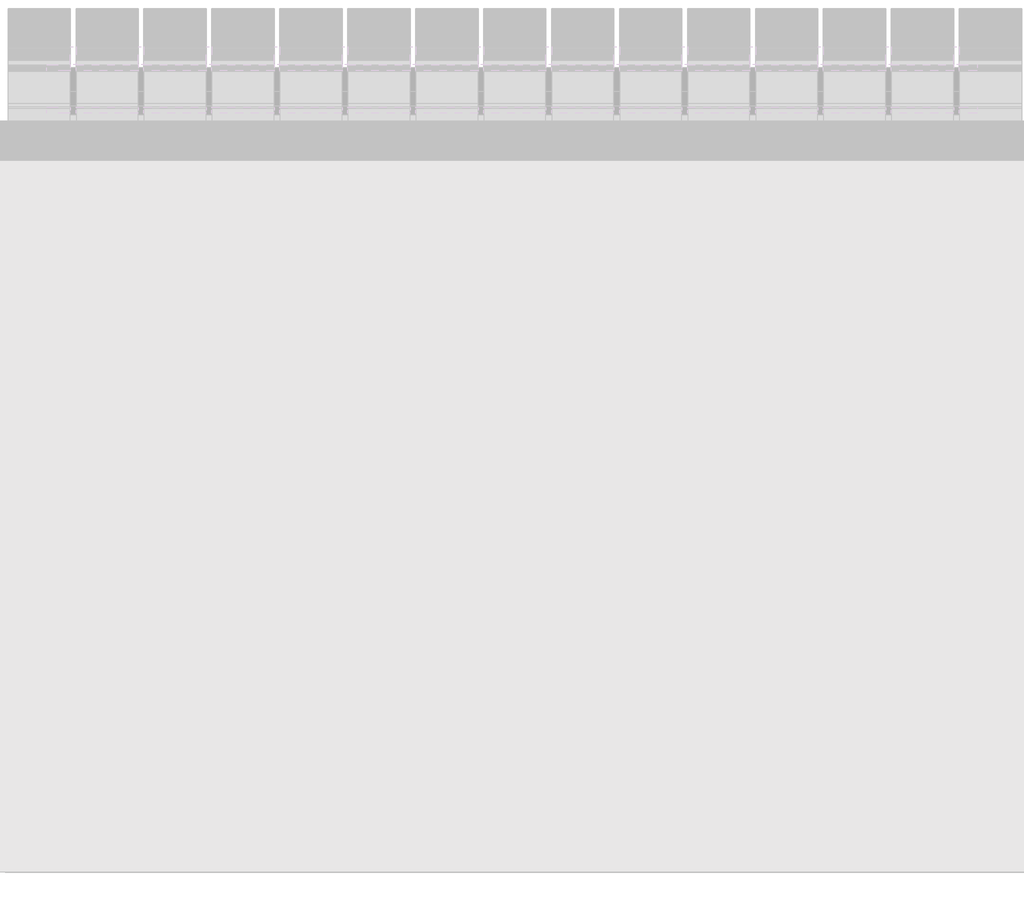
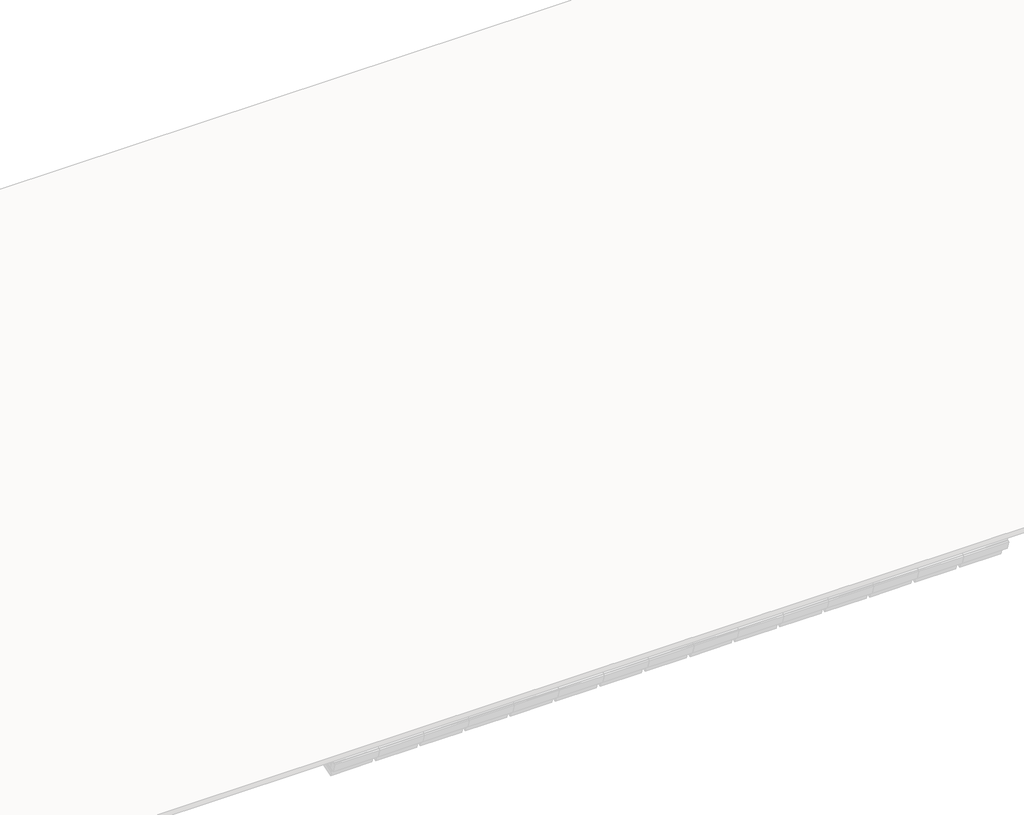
# One storey, part 36 of 57: 80 members, 44 plates.
"""IFC4 building model written with IfcOpenShell, lengths in millimetres."""

from ifc_helpers import new_model, si_unit, origin, place, context, project, spatial, transform, mapped, element, save
from components import rectangular_mullion_59984080, rectangular_mullion_2d2423ea, rectangular_mullion_caibro_e4384bba, rectangular_mullion_caibro_0993a3cf, empty_system_panel_vazio_178faf58, empty_system_panel_vazio_2c78850d

model = new_model("IFC4")

# Units and contexts
model_context = context("Model", 3, world=origin())
ifc_project = project(units=[si_unit("LENGTHUNIT", "METRE", prefix="MILLI")], contexts=[model_context])

# Site, building, storey
site = spatial("IfcSite", under=ifc_project)
building = spatial("IfcBuilding", under=site)
storey = spatial("IfcBuildingStorey", under=building, Name="Nível 2", Elevation=4100.0)

# Members
placement = place(None, origin())
rectangular_mullion_shape = rectangular_mullion_59984080(model_context)
element("IfcMember", 1, ObjectType="Rectangular Mullion : Ripa", at=placement, inside=storey, context=model_context, shape_type="MappedRepresentation", body=[
    mapped(rectangular_mullion_shape, transform((30435.3089606, 8162.5832694, 3598.8241594), x_axis=(0.0, 0.9578262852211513, 0.2873478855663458), y_axis=(0.0, 0.2873478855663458, -0.9578262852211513), z_axis=(-1.0, 0.0, 0.0))),
])
element("IfcMember", 2, ObjectType="Rectangular Mullion : Ripa", at=placement, inside=storey, context=model_context, shape_type="MappedRepresentation", body=[
    mapped(rectangular_mullion_shape, transform((31032.363717, 8162.5832694, 3598.8241594), x_axis=(0.0, 0.9578262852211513, 0.2873478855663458), y_axis=(0.0, 0.2873478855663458, -0.9578262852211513), z_axis=(-1.0, 0.0, 0.0))),
])
element("IfcMember", 3, ObjectType="Rectangular Mullion : Ripa", at=placement, inside=storey, context=model_context, shape_type="MappedRepresentation", body=[
    mapped(rectangular_mullion_shape, transform((31629.4184734, 8162.5832694, 3598.8241594), x_axis=(0.0, 0.9578262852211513, 0.2873478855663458), y_axis=(0.0, 0.2873478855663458, -0.9578262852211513), z_axis=(-1.0, 0.0, 0.0))),
])
element("IfcMember", 4, ObjectType="Rectangular Mullion : Ripa", at=placement, inside=storey, context=model_context, shape_type="MappedRepresentation", body=[
    mapped(rectangular_mullion_shape, transform((30435.3089606, 8532.7605281, 3709.877337), x_axis=(0.0, 0.9578262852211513, 0.2873478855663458), y_axis=(0.0, 0.2873478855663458, -0.9578262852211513), z_axis=(-1.0, 0.0, 0.0))),
])
element("IfcMember", 5, ObjectType="Rectangular Mullion : Ripa", at=placement, inside=storey, context=model_context, shape_type="MappedRepresentation", body=[
    mapped(rectangular_mullion_shape, transform((31032.363717, 8532.7605281, 3709.877337), x_axis=(0.0, 0.9578262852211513, 0.2873478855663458), y_axis=(0.0, 0.2873478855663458, -0.9578262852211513), z_axis=(-1.0, 0.0, 0.0))),
])
element("IfcMember", 6, ObjectType="Rectangular Mullion : Ripa", at=placement, inside=storey, context=model_context, shape_type="MappedRepresentation", body=[
    mapped(rectangular_mullion_shape, transform((31629.4184734, 8532.7605281, 3709.877337), x_axis=(0.0, 0.9578262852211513, 0.2873478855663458), y_axis=(0.0, 0.2873478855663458, -0.9578262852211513), z_axis=(-1.0, 0.0, 0.0))),
])
element("IfcMember", 7, ObjectType="Rectangular Mullion : Ripa", at=placement, inside=storey, context=model_context, shape_type="MappedRepresentation", body=[
    mapped(rectangular_mullion_shape, transform((30435.3089606, 8902.9377868, 3820.9305146), x_axis=(0.0, 0.9578262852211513, 0.2873478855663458), y_axis=(0.0, 0.2873478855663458, -0.9578262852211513), z_axis=(-1.0, 0.0, 0.0))),
])
element("IfcMember", 8, ObjectType="Rectangular Mullion : Ripa", at=placement, inside=storey, context=model_context, shape_type="MappedRepresentation", body=[
    mapped(rectangular_mullion_shape, transform((31032.363717, 8902.9377868, 3820.9305146), x_axis=(0.0, 0.9578262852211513, 0.2873478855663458), y_axis=(0.0, 0.2873478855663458, -0.9578262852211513), z_axis=(-1.0, 0.0, 0.0))),
])
element("IfcMember", 9, ObjectType="Rectangular Mullion : Ripa", at=placement, inside=storey, context=model_context, shape_type="MappedRepresentation", body=[
    mapped(rectangular_mullion_shape, transform((31629.4184734, 8902.9377868, 3820.9305146), x_axis=(0.0, 0.9578262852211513, 0.2873478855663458), y_axis=(0.0, 0.2873478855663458, -0.9578262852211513), z_axis=(-1.0, 0.0, 0.0))),
])
element("IfcMember", 10, ObjectType="Rectangular Mullion : Ripa", at=placement, inside=storey, context=model_context, shape_type="MappedRepresentation", body=[
    mapped(rectangular_mullion_shape, transform((29241.1994477, 9273.1150454, 3931.9836922), x_axis=(0.0, 0.9578262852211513, 0.2873478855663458), y_axis=(0.0, 0.2873478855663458, -0.9578262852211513), z_axis=(-1.0, 0.0, 0.0))),
])
element("IfcMember", 11, ObjectType="Rectangular Mullion : Ripa", at=placement, inside=storey, context=model_context, shape_type="MappedRepresentation", body=[
    mapped(rectangular_mullion_shape, transform((29838.2542041, 9273.1150454, 3931.9836922), x_axis=(0.0, 0.9578262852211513, 0.2873478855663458), y_axis=(0.0, 0.2873478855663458, -0.9578262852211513), z_axis=(-1.0, 0.0, 0.0))),
])
element("IfcMember", 12, ObjectType="Rectangular Mullion : Ripa", at=placement, inside=storey, context=model_context, shape_type="MappedRepresentation", body=[
    mapped(rectangular_mullion_shape, transform((30435.3089606, 9273.1150454, 3931.9836922), x_axis=(0.0, 0.9578262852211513, 0.2873478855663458), y_axis=(0.0, 0.2873478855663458, -0.9578262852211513), z_axis=(-1.0, 0.0, 0.0))),
])
element("IfcMember", 13, ObjectType="Rectangular Mullion : Ripa", at=placement, inside=storey, context=model_context, shape_type="MappedRepresentation", body=[
    mapped(rectangular_mullion_shape, transform((31032.363717, 9273.1150454, 3931.9836922), x_axis=(0.0, 0.9578262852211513, 0.2873478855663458), y_axis=(0.0, 0.2873478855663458, -0.9578262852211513), z_axis=(-1.0, 0.0, 0.0))),
])
element("IfcMember", 14, ObjectType="Rectangular Mullion : Ripa", at=placement, inside=storey, context=model_context, shape_type="MappedRepresentation", body=[
    mapped(rectangular_mullion_shape, transform((31629.4184734, 9273.1150454, 3931.9836922), x_axis=(0.0, 0.9578262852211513, 0.2873478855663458), y_axis=(0.0, 0.2873478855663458, -0.9578262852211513), z_axis=(-1.0, 0.0, 0.0))),
])
element("IfcMember", 15, ObjectType="Rectangular Mullion : Ripa", at=placement, inside=storey, context=model_context, shape_type="MappedRepresentation", body=[
    mapped(rectangular_mullion_shape, transform((28047.0899349, 9643.2923041, 4043.0368698), x_axis=(0.0, 0.9578262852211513, 0.2873478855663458), y_axis=(0.0, 0.2873478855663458, -0.9578262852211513), z_axis=(-1.0, 0.0, 0.0))),
])
element("IfcMember", 16, ObjectType="Rectangular Mullion : Ripa", at=placement, inside=storey, context=model_context, shape_type="MappedRepresentation", body=[
    mapped(rectangular_mullion_shape, transform((28644.1446913, 9643.2923041, 4043.0368698), x_axis=(0.0, 0.9578262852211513, 0.2873478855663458), y_axis=(0.0, 0.2873478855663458, -0.9578262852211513), z_axis=(-1.0, 0.0, 0.0))),
])
element("IfcMember", 17, ObjectType="Rectangular Mullion : Ripa", at=placement, inside=storey, context=model_context, shape_type="MappedRepresentation", body=[
    mapped(rectangular_mullion_shape, transform((29241.1994477, 9643.2923041, 4043.0368698), x_axis=(0.0, 0.9578262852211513, 0.2873478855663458), y_axis=(0.0, 0.2873478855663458, -0.9578262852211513), z_axis=(-1.0, 0.0, 0.0))),
])
element("IfcMember", 18, ObjectType="Rectangular Mullion : Ripa", at=placement, inside=storey, context=model_context, shape_type="MappedRepresentation", body=[
    mapped(rectangular_mullion_shape, transform((29838.2542041, 9643.2923041, 4043.0368698), x_axis=(0.0, 0.9578262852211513, 0.2873478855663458), y_axis=(0.0, 0.2873478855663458, -0.9578262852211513), z_axis=(-1.0, 0.0, 0.0))),
])
element("IfcMember", 19, ObjectType="Rectangular Mullion : Ripa", at=placement, inside=storey, context=model_context, shape_type="MappedRepresentation", body=[
    mapped(rectangular_mullion_shape, transform((30435.3089606, 9643.2923041, 4043.0368698), x_axis=(0.0, 0.9578262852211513, 0.2873478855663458), y_axis=(0.0, 0.2873478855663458, -0.9578262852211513), z_axis=(-1.0, 0.0, 0.0))),
])
element("IfcMember", 20, ObjectType="Rectangular Mullion : Ripa", at=placement, inside=storey, context=model_context, shape_type="MappedRepresentation", body=[
    mapped(rectangular_mullion_shape, transform((31032.363717, 9643.2923041, 4043.0368698), x_axis=(0.0, 0.9578262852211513, 0.2873478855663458), y_axis=(0.0, 0.2873478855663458, -0.9578262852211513), z_axis=(-1.0, 0.0, 0.0))),
])
element("IfcMember", 21, ObjectType="Rectangular Mullion : Ripa", at=placement, inside=storey, context=model_context, shape_type="MappedRepresentation", body=[
    mapped(rectangular_mullion_shape, transform((31629.4184734, 9643.2923041, 4043.0368698), x_axis=(0.0, 0.9578262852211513, 0.2873478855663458), y_axis=(0.0, 0.2873478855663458, -0.9578262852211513), z_axis=(-1.0, 0.0, 0.0))),
])
element("IfcMember", 22, ObjectType="Rectangular Mullion : Ripa", at=placement, inside=storey, context=model_context, shape_type="MappedRepresentation", body=[
    mapped(rectangular_mullion_shape, transform((28047.0899349, 10013.4695628, 4154.0900474), x_axis=(0.0, 0.9578262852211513, 0.2873478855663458), y_axis=(0.0, 0.2873478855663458, -0.9578262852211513), z_axis=(-1.0, 0.0, 0.0))),
])
element("IfcMember", 23, ObjectType="Rectangular Mullion : Ripa", at=placement, inside=storey, context=model_context, shape_type="MappedRepresentation", body=[
    mapped(rectangular_mullion_shape, transform((28644.1446913, 10013.4695628, 4154.0900474), x_axis=(0.0, 0.9578262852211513, 0.2873478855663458), y_axis=(0.0, 0.2873478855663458, -0.9578262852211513), z_axis=(-1.0, 0.0, 0.0))),
])
element("IfcMember", 24, ObjectType="Rectangular Mullion : Ripa", at=placement, inside=storey, context=model_context, shape_type="MappedRepresentation", body=[
    mapped(rectangular_mullion_shape, transform((29241.1994477, 10013.4695628, 4154.0900474), x_axis=(0.0, 0.9578262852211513, 0.2873478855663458), y_axis=(0.0, 0.2873478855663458, -0.9578262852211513), z_axis=(-1.0, 0.0, 0.0))),
])
element("IfcMember", 25, ObjectType="Rectangular Mullion : Ripa", at=placement, inside=storey, context=model_context, shape_type="MappedRepresentation", body=[
    mapped(rectangular_mullion_shape, transform((29838.2542041, 10013.4695628, 4154.0900474), x_axis=(0.0, 0.9578262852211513, 0.2873478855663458), y_axis=(0.0, 0.2873478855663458, -0.9578262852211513), z_axis=(-1.0, 0.0, 0.0))),
])
element("IfcMember", 26, ObjectType="Rectangular Mullion : Ripa", at=placement, inside=storey, context=model_context, shape_type="MappedRepresentation", body=[
    mapped(rectangular_mullion_shape, transform((28047.0899349, 10383.6468214, 4265.143225), x_axis=(0.0, 0.9578262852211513, 0.2873478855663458), y_axis=(0.0, 0.2873478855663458, -0.9578262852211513), z_axis=(-1.0, 0.0, 0.0))),
])
element("IfcMember", 27, ObjectType="Rectangular Mullion : Ripa", at=placement, inside=storey, context=model_context, shape_type="MappedRepresentation", body=[
    mapped(rectangular_mullion_shape, transform((28644.1446913, 10383.6468214, 4265.143225), x_axis=(0.0, 0.9578262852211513, 0.2873478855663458), y_axis=(0.0, 0.2873478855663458, -0.9578262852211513), z_axis=(-1.0, 0.0, 0.0))),
])
element("IfcMember", 28, ObjectType="Rectangular Mullion : Ripa", at=placement, inside=storey, context=model_context, shape_type="MappedRepresentation", body=[
    mapped(rectangular_mullion_shape, transform((29241.1994477, 10383.6468214, 4265.143225), x_axis=(0.0, 0.9578262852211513, 0.2873478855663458), y_axis=(0.0, 0.2873478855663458, -0.9578262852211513), z_axis=(-1.0, 0.0, 0.0))),
])
element("IfcMember", 29, ObjectType="Rectangular Mullion : Ripa", at=placement, inside=storey, context=model_context, shape_type="MappedRepresentation", body=[
    mapped(rectangular_mullion_shape, transform((29838.2542041, 10383.6468214, 4265.143225), x_axis=(0.0, 0.9578262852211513, 0.2873478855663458), y_axis=(0.0, 0.2873478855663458, -0.9578262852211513), z_axis=(-1.0, 0.0, 0.0))),
])
element("IfcMember", 30, ObjectType="Rectangular Mullion : Ripa", at=placement, inside=storey, context=model_context, shape_type="MappedRepresentation", body=[
    mapped(rectangular_mullion_shape, transform((28047.0899349, 10753.8240801, 4376.1964026), x_axis=(0.0, 0.9578262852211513, 0.2873478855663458), y_axis=(0.0, 0.2873478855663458, -0.9578262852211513), z_axis=(-1.0, 0.0, 0.0))),
])
element("IfcMember", 31, ObjectType="Rectangular Mullion : Ripa", at=placement, inside=storey, context=model_context, shape_type="MappedRepresentation", body=[
    mapped(rectangular_mullion_shape, transform((28644.1446913, 10753.8240801, 4376.1964026), x_axis=(0.0, 0.9578262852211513, 0.2873478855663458), y_axis=(0.0, 0.2873478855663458, -0.9578262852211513), z_axis=(-1.0, 0.0, 0.0))),
])
element("IfcMember", 32, ObjectType="Rectangular Mullion : Ripa", at=placement, inside=storey, context=model_context, shape_type="MappedRepresentation", body=[
    mapped(rectangular_mullion_shape, transform((29241.1994477, 10753.8240801, 4376.1964026), x_axis=(0.0, 0.9578262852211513, 0.2873478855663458), y_axis=(0.0, 0.2873478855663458, -0.9578262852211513), z_axis=(-1.0, 0.0, 0.0))),
])
element("IfcMember", 33, ObjectType="Rectangular Mullion : Ripa", at=placement, inside=storey, context=model_context, shape_type="MappedRepresentation", body=[
    mapped(rectangular_mullion_shape, transform((29838.2542041, 10753.8240801, 4376.1964026), x_axis=(0.0, 0.9578262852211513, 0.2873478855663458), y_axis=(0.0, 0.2873478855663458, -0.9578262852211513), z_axis=(-1.0, 0.0, 0.0))),
])
rectangular_mullion_2_shape = rectangular_mullion_2d2423ea(model_context)
element("IfcMember", 34, ObjectType="Rectangular Mullion : Terça", at=placement, inside=storey, context=model_context, shape_type="MappedRepresentation", body=[
    mapped(rectangular_mullion_2_shape, transform((28047.0899349, 9159.0196393, 3835.1132313), x_axis=(0.0, 0.9578262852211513, 0.2873478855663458), y_axis=(0.0, 0.2873478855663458, -0.9578262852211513), z_axis=(-1.0, 0.0, 0.0))),
])
element("IfcMember", 35, ObjectType="Rectangular Mullion : Terça", at=placement, inside=storey, context=model_context, shape_type="MappedRepresentation", body=[
    mapped(rectangular_mullion_2_shape, transform((28644.1446913, 9159.0196393, 3835.1132313), x_axis=(0.0, 0.9578262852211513, 0.2873478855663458), y_axis=(0.0, 0.2873478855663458, -0.9578262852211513), z_axis=(-1.0, 0.0, 0.0))),
])
element("IfcMember", 36, ObjectType="Rectangular Mullion : Terça", at=placement, inside=storey, context=model_context, shape_type="MappedRepresentation", body=[
    mapped(rectangular_mullion_2_shape, transform((29241.1994477, 9159.0196393, 3835.1132313), x_axis=(0.0, 0.9578262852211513, 0.2873478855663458), y_axis=(0.0, 0.2873478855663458, -0.9578262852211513), z_axis=(-1.0, 0.0, 0.0))),
])
element("IfcMember", 37, ObjectType="Rectangular Mullion : Terça", at=placement, inside=storey, context=model_context, shape_type="MappedRepresentation", body=[
    mapped(rectangular_mullion_2_shape, transform((29838.2542041, 9159.0196393, 3835.1132313), x_axis=(0.0, 0.9578262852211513, 0.2873478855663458), y_axis=(0.0, 0.2873478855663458, -0.9578262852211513), z_axis=(-1.0, 0.0, 0.0))),
])
element("IfcMember", 38, ObjectType="Rectangular Mullion : Terça", at=placement, inside=storey, context=model_context, shape_type="MappedRepresentation", body=[
    mapped(rectangular_mullion_2_shape, transform((30435.3089606, 9159.0196393, 3835.1132313), x_axis=(0.0, 0.9578262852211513, 0.2873478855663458), y_axis=(0.0, 0.2873478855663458, -0.9578262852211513), z_axis=(-1.0, 0.0, 0.0))),
])
element("IfcMember", 39, ObjectType="Rectangular Mullion : Terça", at=placement, inside=storey, context=model_context, shape_type="MappedRepresentation", body=[
    mapped(rectangular_mullion_2_shape, transform((31032.363717, 9159.0196393, 3835.1132313), x_axis=(0.0, 0.9578262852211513, 0.2873478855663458), y_axis=(0.0, 0.2873478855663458, -0.9578262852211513), z_axis=(-1.0, 0.0, 0.0))),
])
element("IfcMember", 40, ObjectType="Rectangular Mullion : Terça", at=placement, inside=storey, context=model_context, shape_type="MappedRepresentation", body=[
    mapped(rectangular_mullion_2_shape, transform((31629.4184734, 9159.0196393, 3835.1132313), x_axis=(0.0, 0.9578262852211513, 0.2873478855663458), y_axis=(0.0, 0.2873478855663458, -0.9578262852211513), z_axis=(-1.0, 0.0, 0.0))),
])
rectangular_mullion_caibro_shape = rectangular_mullion_caibro_e4384bba(model_context)
element("IfcMember", 41, ObjectType="Rectangular Mullion : Caibro", at=placement, inside=storey, context=model_context, shape_type="MappedRepresentation", body=[
    mapped(rectangular_mullion_caibro_shape, transform((28022.0899349, 10013.4695628, 4154.0900474), x_axis=(1.0, 0.0, 0.0), y_axis=(0.0, 0.28734788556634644, -0.9578262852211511), z_axis=(0.0, 0.957826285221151, 0.2873478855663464))),
])
element("IfcMember", 42, ObjectType="Rectangular Mullion : Caibro", at=placement, inside=storey, context=model_context, shape_type="MappedRepresentation", body=[
    mapped(rectangular_mullion_caibro_shape, transform((28022.0899349, 10383.6468214, 4265.143225), x_axis=(1.0, 0.0, 0.0), y_axis=(0.0, 0.28734788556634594, -0.9578262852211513), z_axis=(0.0, 0.9578262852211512, 0.2873478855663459))),
])
element("IfcMember", 43, ObjectType="Rectangular Mullion : Caibro", at=placement, inside=storey, context=model_context, shape_type="MappedRepresentation", body=[
    mapped(rectangular_mullion_caibro_shape, transform((28022.0899349, 10753.8240801, 4376.1964026), x_axis=(1.0, 0.0, 0.0), y_axis=(0.0, 0.28734788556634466, -0.9578262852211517), z_axis=(0.0, 0.9578262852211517, 0.28734788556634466))),
])
element("IfcMember", 44, ObjectType="Rectangular Mullion : Caibro", at=placement, inside=storey, context=model_context, shape_type="MappedRepresentation", body=[
    mapped(rectangular_mullion_caibro_shape, transform((28022.0899349, 11124.0013387, 4487.2495802), x_axis=(1.0, 0.0, 0.0), y_axis=(0.0, 0.2873478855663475, -0.9578262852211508), z_axis=(0.0, 0.9578262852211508, 0.2873478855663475))),
])
element("IfcMember", 45, ObjectType="Rectangular Mullion : Caibro", at=placement, inside=storey, context=model_context, shape_type="MappedRepresentation", body=[
    mapped(rectangular_mullion_caibro_shape, transform((28022.0899349, 11494.1785974, 4598.3027578), x_axis=(1.0, 0.0, 0.0), y_axis=(0.0, 0.28734788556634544, -0.9578262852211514), z_axis=(0.0, 0.9578262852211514, 0.28734788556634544))),
])
element("IfcMember", 46, ObjectType="Rectangular Mullion : Caibro", at=placement, inside=storey, context=model_context, shape_type="MappedRepresentation", body=[
    mapped(rectangular_mullion_caibro_shape, transform((28619.1446913, 10013.4695628, 4154.0900474), x_axis=(1.0, 0.0, 0.0), y_axis=(0.0, 0.28734788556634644, -0.9578262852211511), z_axis=(0.0, 0.957826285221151, 0.2873478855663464))),
])
element("IfcMember", 47, ObjectType="Rectangular Mullion : Caibro", at=placement, inside=storey, context=model_context, shape_type="MappedRepresentation", body=[
    mapped(rectangular_mullion_caibro_shape, transform((28619.1446913, 10383.6468214, 4265.143225), x_axis=(1.0, 0.0, 0.0), y_axis=(0.0, 0.28734788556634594, -0.9578262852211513), z_axis=(0.0, 0.9578262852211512, 0.2873478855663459))),
])
element("IfcMember", 48, ObjectType="Rectangular Mullion : Caibro", at=placement, inside=storey, context=model_context, shape_type="MappedRepresentation", body=[
    mapped(rectangular_mullion_caibro_shape, transform((28619.1446913, 10753.8240801, 4376.1964026), x_axis=(1.0, 0.0, 0.0), y_axis=(0.0, 0.28734788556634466, -0.9578262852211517), z_axis=(0.0, 0.9578262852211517, 0.28734788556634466))),
])
element("IfcMember", 49, ObjectType="Rectangular Mullion : Caibro", at=placement, inside=storey, context=model_context, shape_type="MappedRepresentation", body=[
    mapped(rectangular_mullion_caibro_shape, transform((29216.1994477, 9273.1150454, 3931.9836922), x_axis=(1.0, 0.0, 0.0), y_axis=(0.0, 0.2873478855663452, -0.9578262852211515), z_axis=(0.0, 0.9578262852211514, 0.28734788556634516))),
])
element("IfcMember", 50, ObjectType="Rectangular Mullion : Caibro", at=placement, inside=storey, context=model_context, shape_type="MappedRepresentation", body=[
    mapped(rectangular_mullion_caibro_shape, transform((29216.1994477, 9643.2923041, 4043.0368698), x_axis=(1.0, 0.0, 0.0), y_axis=(0.0, 0.2873478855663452, -0.9578262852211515), z_axis=(0.0, 0.9578262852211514, 0.28734788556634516))),
])
element("IfcMember", 51, ObjectType="Rectangular Mullion : Caibro", at=placement, inside=storey, context=model_context, shape_type="MappedRepresentation", body=[
    mapped(rectangular_mullion_caibro_shape, transform((29216.1994477, 10013.4695628, 4154.0900474), x_axis=(1.0, 0.0, 0.0), y_axis=(0.0, 0.28734788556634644, -0.9578262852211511), z_axis=(0.0, 0.957826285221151, 0.2873478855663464))),
])
element("IfcMember", 52, ObjectType="Rectangular Mullion : Caibro", at=placement, inside=storey, context=model_context, shape_type="MappedRepresentation", body=[
    mapped(rectangular_mullion_caibro_shape, transform((29216.1994477, 10383.6468214, 4265.143225), x_axis=(1.0, 0.0, 0.0), y_axis=(0.0, 0.28734788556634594, -0.9578262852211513), z_axis=(0.0, 0.9578262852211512, 0.2873478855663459))),
])
element("IfcMember", 53, ObjectType="Rectangular Mullion : Caibro", at=placement, inside=storey, context=model_context, shape_type="MappedRepresentation", body=[
    mapped(rectangular_mullion_caibro_shape, transform((29216.1994477, 10753.8240801, 4376.1964026), x_axis=(1.0, 0.0, 0.0), y_axis=(0.0, 0.28734788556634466, -0.9578262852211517), z_axis=(0.0, 0.9578262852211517, 0.28734788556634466))),
])
element("IfcMember", 54, ObjectType="Rectangular Mullion : Caibro", at=placement, inside=storey, context=model_context, shape_type="MappedRepresentation", body=[
    mapped(rectangular_mullion_caibro_shape, transform((29813.2542041, 9273.1150454, 3931.9836922), x_axis=(1.0, 0.0, 0.0), y_axis=(0.0, 0.2873478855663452, -0.9578262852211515), z_axis=(0.0, 0.9578262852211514, 0.28734788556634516))),
])
element("IfcMember", 55, ObjectType="Rectangular Mullion : Caibro", at=placement, inside=storey, context=model_context, shape_type="MappedRepresentation", body=[
    mapped(rectangular_mullion_caibro_shape, transform((29813.2542041, 9643.2923041, 4043.0368698), x_axis=(1.0, 0.0, 0.0), y_axis=(0.0, 0.28734788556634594, -0.9578262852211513), z_axis=(0.0, 0.9578262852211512, 0.2873478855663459))),
])
element("IfcMember", 56, ObjectType="Rectangular Mullion : Caibro", at=placement, inside=storey, context=model_context, shape_type="MappedRepresentation", body=[
    mapped(rectangular_mullion_caibro_shape, transform((29813.2542041, 10013.4695628, 4154.0900474), x_axis=(1.0, 0.0, 0.0), y_axis=(0.0, 0.287347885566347, -0.9578262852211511), z_axis=(0.0, 0.9578262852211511, 0.287347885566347))),
])
element("IfcMember", 57, ObjectType="Rectangular Mullion : Caibro", at=placement, inside=storey, context=model_context, shape_type="MappedRepresentation", body=[
    mapped(rectangular_mullion_caibro_shape, transform((29813.2542041, 10383.6468214, 4265.143225), x_axis=(1.0, 0.0, 0.0), y_axis=(0.0, 0.28734788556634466, -0.9578262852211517), z_axis=(0.0, 0.9578262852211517, 0.28734788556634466))),
])
element("IfcMember", 58, ObjectType="Rectangular Mullion : Caibro", at=placement, inside=storey, context=model_context, shape_type="MappedRepresentation", body=[
    mapped(rectangular_mullion_caibro_shape, transform((29813.2542041, 10753.8240801, 4376.1964026), x_axis=(1.0, 0.0, 0.0), y_axis=(0.0, 0.28734788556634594, -0.9578262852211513), z_axis=(0.0, 0.9578262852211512, 0.2873478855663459))),
])
element("IfcMember", 59, ObjectType="Rectangular Mullion : Caibro", at=placement, inside=storey, context=model_context, shape_type="MappedRepresentation", body=[
    mapped(rectangular_mullion_caibro_shape, transform((30410.3089606, 8162.5832694, 3598.8241594), x_axis=(1.0, 0.0, 0.0), y_axis=(0.0, 0.2873478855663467, -0.9578262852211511), z_axis=(0.0, 0.9578262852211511, 0.2873478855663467))),
])
element("IfcMember", 60, ObjectType="Rectangular Mullion : Caibro", at=placement, inside=storey, context=model_context, shape_type="MappedRepresentation", body=[
    mapped(rectangular_mullion_caibro_shape, transform((30410.3089606, 8532.7605281, 3709.877337), x_axis=(1.0, 0.0, 0.0), y_axis=(0.0, 0.2873478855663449, -0.9578262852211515), z_axis=(0.0, 0.9578262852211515, 0.2873478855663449))),
])
element("IfcMember", 61, ObjectType="Rectangular Mullion : Caibro", at=placement, inside=storey, context=model_context, shape_type="MappedRepresentation", body=[
    mapped(rectangular_mullion_caibro_shape, transform((30410.3089606, 8902.9377868, 3820.9305146), x_axis=(1.0, 0.0, 0.0), y_axis=(0.0, 0.2873478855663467, -0.9578262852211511), z_axis=(0.0, 0.9578262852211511, 0.2873478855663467))),
])
element("IfcMember", 62, ObjectType="Rectangular Mullion : Caibro", at=placement, inside=storey, context=model_context, shape_type="MappedRepresentation", body=[
    mapped(rectangular_mullion_caibro_shape, transform((30410.3089606, 9273.1150454, 3931.9836922), x_axis=(1.0, 0.0, 0.0), y_axis=(0.0, 0.2873478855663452, -0.9578262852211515), z_axis=(0.0, 0.9578262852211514, 0.28734788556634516))),
])
element("IfcMember", 63, ObjectType="Rectangular Mullion : Caibro", at=placement, inside=storey, context=model_context, shape_type="MappedRepresentation", body=[
    mapped(rectangular_mullion_caibro_shape, transform((30410.3089606, 9643.2923041, 4043.0368698), x_axis=(1.0, 0.0, 0.0), y_axis=(0.0, 0.28734788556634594, -0.9578262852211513), z_axis=(0.0, 0.9578262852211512, 0.2873478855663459))),
])
element("IfcMember", 64, ObjectType="Rectangular Mullion : Caibro", at=placement, inside=storey, context=model_context, shape_type="MappedRepresentation", body=[
    mapped(rectangular_mullion_caibro_shape, transform((31007.363717, 8162.5832694, 3598.8241594), x_axis=(1.0, 0.0, 0.0), y_axis=(0.0, 0.2873478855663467, -0.9578262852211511), z_axis=(0.0, 0.9578262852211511, 0.2873478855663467))),
])
element("IfcMember", 65, ObjectType="Rectangular Mullion : Caibro", at=placement, inside=storey, context=model_context, shape_type="MappedRepresentation", body=[
    mapped(rectangular_mullion_caibro_shape, transform((31007.363717, 8532.7605281, 3709.877337), x_axis=(1.0, 0.0, 0.0), y_axis=(0.0, 0.2873478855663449, -0.9578262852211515), z_axis=(0.0, 0.9578262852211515, 0.2873478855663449))),
])
element("IfcMember", 66, ObjectType="Rectangular Mullion : Caibro", at=placement, inside=storey, context=model_context, shape_type="MappedRepresentation", body=[
    mapped(rectangular_mullion_caibro_shape, transform((31007.363717, 8902.9377868, 3820.9305146), x_axis=(1.0, 0.0, 0.0), y_axis=(0.0, 0.2873478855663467, -0.9578262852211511), z_axis=(0.0, 0.9578262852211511, 0.2873478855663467))),
])
element("IfcMember", 67, ObjectType="Rectangular Mullion : Caibro", at=placement, inside=storey, context=model_context, shape_type="MappedRepresentation", body=[
    mapped(rectangular_mullion_caibro_shape, transform((31007.363717, 9273.1150454, 3931.9836922), x_axis=(1.0, 0.0, 0.0), y_axis=(0.0, 0.2873478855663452, -0.9578262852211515), z_axis=(0.0, 0.9578262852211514, 0.28734788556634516))),
])
element("IfcMember", 68, ObjectType="Rectangular Mullion : Caibro", at=placement, inside=storey, context=model_context, shape_type="MappedRepresentation", body=[
    mapped(rectangular_mullion_caibro_shape, transform((31007.363717, 9643.2923041, 4043.0368698), x_axis=(1.0, 0.0, 0.0), y_axis=(0.0, 0.28734788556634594, -0.9578262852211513), z_axis=(0.0, 0.9578262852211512, 0.2873478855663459))),
])
element("IfcMember", 69, ObjectType="Rectangular Mullion : Caibro", at=placement, inside=storey, context=model_context, shape_type="MappedRepresentation", body=[
    mapped(rectangular_mullion_caibro_shape, transform((31604.4184734, 8162.5832694, 3598.8241594), x_axis=(1.0, 0.0, 0.0), y_axis=(0.0, 0.2873478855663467, -0.9578262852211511), z_axis=(0.0, 0.9578262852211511, 0.2873478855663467))),
])
element("IfcMember", 70, ObjectType="Rectangular Mullion : Caibro", at=placement, inside=storey, context=model_context, shape_type="MappedRepresentation", body=[
    mapped(rectangular_mullion_caibro_shape, transform((31604.4184734, 8532.7605281, 3709.877337), x_axis=(1.0, 0.0, 0.0), y_axis=(0.0, 0.2873478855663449, -0.9578262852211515), z_axis=(0.0, 0.9578262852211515, 0.2873478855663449))),
])
element("IfcMember", 71, ObjectType="Rectangular Mullion : Caibro", at=placement, inside=storey, context=model_context, shape_type="MappedRepresentation", body=[
    mapped(rectangular_mullion_caibro_shape, transform((31604.4184734, 8902.9377868, 3820.9305146), x_axis=(1.0, 0.0, 0.0), y_axis=(0.0, 0.2873478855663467, -0.9578262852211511), z_axis=(0.0, 0.9578262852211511, 0.2873478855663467))),
])
element("IfcMember", 72, ObjectType="Rectangular Mullion : Caibro", at=placement, inside=storey, context=model_context, shape_type="MappedRepresentation", body=[
    mapped(rectangular_mullion_caibro_shape, transform((31604.4184734, 9273.1150454, 3931.9836922), x_axis=(1.0, 0.0, 0.0), y_axis=(0.0, 0.2873478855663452, -0.9578262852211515), z_axis=(0.0, 0.9578262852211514, 0.28734788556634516))),
])
element("IfcMember", 73, ObjectType="Rectangular Mullion : Caibro", at=placement, inside=storey, context=model_context, shape_type="MappedRepresentation", body=[
    mapped(rectangular_mullion_caibro_shape, transform((31604.4184734, 9643.2923041, 4043.0368698), x_axis=(1.0, 0.0, 0.0), y_axis=(0.0, 0.28734788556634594, -0.9578262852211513), z_axis=(0.0, 0.9578262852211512, 0.2873478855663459))),
])
rectangular_mullion_caibro_2_shape = rectangular_mullion_caibro_0993a3cf(model_context)
element("IfcMember", 74, ObjectType="Rectangular Mullion : Caibro", at=placement, inside=storey, context=model_context, shape_type="MappedRepresentation", body=[
    mapped(rectangular_mullion_caibro_2_shape, transform((28022.0899349, 9159.0196393, 3835.1132313), x_axis=(1.0, 0.0, 0.0), y_axis=(0.0, 0.2873478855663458, -0.9578262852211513), z_axis=(0.0, 0.9578262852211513, 0.2873478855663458))),
])
element("IfcMember", 75, ObjectType="Rectangular Mullion : Caibro", at=placement, inside=storey, context=model_context, shape_type="MappedRepresentation", body=[
    mapped(rectangular_mullion_caibro_2_shape, transform((28619.1446913, 9159.0196393, 3835.1132313), x_axis=(1.0, 0.0, 0.0), y_axis=(0.0, 0.2873478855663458, -0.9578262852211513), z_axis=(0.0, 0.9578262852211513, 0.2873478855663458))),
])
element("IfcMember", 76, ObjectType="Rectangular Mullion : Caibro", at=placement, inside=storey, context=model_context, shape_type="MappedRepresentation", body=[
    mapped(rectangular_mullion_caibro_2_shape, transform((29216.1994477, 9159.0196393, 3835.1132313), x_axis=(1.0, 0.0, 0.0), y_axis=(0.0, 0.2873478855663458, -0.9578262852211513), z_axis=(0.0, 0.9578262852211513, 0.2873478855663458))),
])
element("IfcMember", 77, ObjectType="Rectangular Mullion : Caibro", at=placement, inside=storey, context=model_context, shape_type="MappedRepresentation", body=[
    mapped(rectangular_mullion_caibro_2_shape, transform((29813.2542041, 9159.0196393, 3835.1132313), x_axis=(1.0, 0.0, 0.0), y_axis=(0.0, 0.2873478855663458, -0.9578262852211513), z_axis=(0.0, 0.9578262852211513, 0.2873478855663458))),
])
element("IfcMember", 78, ObjectType="Rectangular Mullion : Caibro", at=placement, inside=storey, context=model_context, shape_type="MappedRepresentation", body=[
    mapped(rectangular_mullion_caibro_2_shape, transform((30410.3089606, 9159.0196393, 3835.1132313), x_axis=(1.0, 0.0, 0.0), y_axis=(0.0, 0.2873478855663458, -0.9578262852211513), z_axis=(0.0, 0.9578262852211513, 0.2873478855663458))),
])
element("IfcMember", 79, ObjectType="Rectangular Mullion : Caibro", at=placement, inside=storey, context=model_context, shape_type="MappedRepresentation", body=[
    mapped(rectangular_mullion_caibro_2_shape, transform((31007.363717, 9159.0196393, 3835.1132313), x_axis=(1.0, 0.0, 0.0), y_axis=(0.0, 0.2873478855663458, -0.9578262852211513), z_axis=(0.0, 0.9578262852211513, 0.2873478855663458))),
])
element("IfcMember", 80, ObjectType="Rectangular Mullion : Caibro", at=placement, inside=storey, context=model_context, shape_type="MappedRepresentation", body=[
    mapped(rectangular_mullion_caibro_2_shape, transform((31604.4184734, 9159.0196393, 3835.1132313), x_axis=(1.0, 0.0, 0.0), y_axis=(0.0, 0.2873478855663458, -0.9578262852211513), z_axis=(0.0, 0.9578262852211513, 0.2873478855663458))),
])

# Plates
empty_system_panel_vazio_shape = empty_system_panel_vazio_178faf58(model_context)
element("IfcPlate", 81, ObjectType="Empty System Panel : Vazio", at=placement, inside=storey, context=model_context, shape_type="MappedRepresentation", body=[
    mapped(empty_system_panel_vazio_shape, transform((30111.7815823, 8162.5832694, 3598.8241594), x_axis=(1.0, 0.0, 0.0), y_axis=(0.0, 0.2873478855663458, -0.9578262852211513), z_axis=(0.0, 0.9578262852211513, 0.2873478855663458))),
])
element("IfcPlate", 82, ObjectType="Empty System Panel : Vazio", at=placement, inside=storey, context=model_context, shape_type="MappedRepresentation", body=[
    mapped(empty_system_panel_vazio_shape, transform((30708.8363388, 8162.5832694, 3598.8241594), x_axis=(1.0, 0.0, 0.0), y_axis=(0.0, 0.2873478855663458, -0.9578262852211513), z_axis=(0.0, 0.9578262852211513, 0.2873478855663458))),
])
element("IfcPlate", 83, ObjectType="Empty System Panel : Vazio", at=placement, inside=storey, context=model_context, shape_type="MappedRepresentation", body=[
    mapped(empty_system_panel_vazio_shape, transform((31305.8910952, 8162.5832694, 3598.8241594), x_axis=(1.0, 0.0, 0.0), y_axis=(0.0, 0.2873478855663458, -0.9578262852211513), z_axis=(0.0, 0.9578262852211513, 0.2873478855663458))),
])
element("IfcPlate", 84, ObjectType="Empty System Panel : Vazio", at=placement, inside=storey, context=model_context, shape_type="MappedRepresentation", body=[
    mapped(empty_system_panel_vazio_shape, transform((31902.9458516, 8162.5832694, 3598.8241594), x_axis=(1.0, 0.0, 0.0), y_axis=(0.0, 0.2873478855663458, -0.9578262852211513), z_axis=(0.0, 0.9578262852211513, 0.2873478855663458))),
])
element("IfcPlate", 85, ObjectType="Empty System Panel : Vazio", at=placement, inside=storey, context=model_context, shape_type="MappedRepresentation", body=[
    mapped(empty_system_panel_vazio_shape, transform((30111.7815823, 8532.7605281, 3709.877337), x_axis=(1.0, 0.0, 0.0), y_axis=(0.0, 0.2873478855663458, -0.9578262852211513), z_axis=(0.0, 0.9578262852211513, 0.2873478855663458))),
])
element("IfcPlate", 86, ObjectType="Empty System Panel : Vazio", at=placement, inside=storey, context=model_context, shape_type="MappedRepresentation", body=[
    mapped(empty_system_panel_vazio_shape, transform((30708.8363388, 8532.7605281, 3709.877337), x_axis=(1.0, 0.0, 0.0), y_axis=(0.0, 0.2873478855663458, -0.9578262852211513), z_axis=(0.0, 0.9578262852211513, 0.2873478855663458))),
])
element("IfcPlate", 87, ObjectType="Empty System Panel : Vazio", at=placement, inside=storey, context=model_context, shape_type="MappedRepresentation", body=[
    mapped(empty_system_panel_vazio_shape, transform((31305.8910952, 8532.7605281, 3709.877337), x_axis=(1.0, 0.0, 0.0), y_axis=(0.0, 0.2873478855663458, -0.9578262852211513), z_axis=(0.0, 0.9578262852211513, 0.2873478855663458))),
])
element("IfcPlate", 88, ObjectType="Empty System Panel : Vazio", at=placement, inside=storey, context=model_context, shape_type="MappedRepresentation", body=[
    mapped(empty_system_panel_vazio_shape, transform((31902.9458516, 8532.7605281, 3709.877337), x_axis=(1.0, 0.0, 0.0), y_axis=(0.0, 0.2873478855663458, -0.9578262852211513), z_axis=(0.0, 0.9578262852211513, 0.2873478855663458))),
])
element("IfcPlate", 89, ObjectType="Empty System Panel : Vazio", at=placement, inside=storey, context=model_context, shape_type="MappedRepresentation", body=[
    mapped(empty_system_panel_vazio_shape, transform((30111.7815823, 8902.9377868, 3820.9305146), x_axis=(1.0, 0.0, 0.0), y_axis=(0.0, 0.2873478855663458, -0.9578262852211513), z_axis=(0.0, 0.9578262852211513, 0.2873478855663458))),
])
element("IfcPlate", 90, ObjectType="Empty System Panel : Vazio", at=placement, inside=storey, context=model_context, shape_type="MappedRepresentation", body=[
    mapped(empty_system_panel_vazio_shape, transform((30708.8363388, 8902.9377868, 3820.9305146), x_axis=(1.0, 0.0, 0.0), y_axis=(0.0, 0.2873478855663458, -0.9578262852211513), z_axis=(0.0, 0.9578262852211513, 0.2873478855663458))),
])
element("IfcPlate", 91, ObjectType="Empty System Panel : Vazio", at=placement, inside=storey, context=model_context, shape_type="MappedRepresentation", body=[
    mapped(empty_system_panel_vazio_shape, transform((31305.8910952, 8902.9377868, 3820.9305146), x_axis=(1.0, 0.0, 0.0), y_axis=(0.0, 0.2873478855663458, -0.9578262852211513), z_axis=(0.0, 0.9578262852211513, 0.2873478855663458))),
])
element("IfcPlate", 92, ObjectType="Empty System Panel : Vazio", at=placement, inside=storey, context=model_context, shape_type="MappedRepresentation", body=[
    mapped(empty_system_panel_vazio_shape, transform((31902.9458516, 8902.9377868, 3820.9305146), x_axis=(1.0, 0.0, 0.0), y_axis=(0.0, 0.2873478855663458, -0.9578262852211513), z_axis=(0.0, 0.9578262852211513, 0.2873478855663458))),
])
element("IfcPlate", 93, ObjectType="Empty System Panel : Vazio", at=placement, inside=storey, context=model_context, shape_type="MappedRepresentation", body=[
    mapped(empty_system_panel_vazio_shape, transform((29514.7268259, 9273.1150454, 3931.9836922), x_axis=(1.0, 0.0, 0.0), y_axis=(0.0, 0.2873478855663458, -0.9578262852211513), z_axis=(0.0, 0.9578262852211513, 0.2873478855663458))),
])
element("IfcPlate", 94, ObjectType="Empty System Panel : Vazio", at=placement, inside=storey, context=model_context, shape_type="MappedRepresentation", body=[
    mapped(empty_system_panel_vazio_shape, transform((30111.7815823, 9273.1150454, 3931.9836922), x_axis=(1.0, 0.0, 0.0), y_axis=(0.0, 0.2873478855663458, -0.9578262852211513), z_axis=(0.0, 0.9578262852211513, 0.2873478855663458))),
])
element("IfcPlate", 95, ObjectType="Empty System Panel : Vazio", at=placement, inside=storey, context=model_context, shape_type="MappedRepresentation", body=[
    mapped(empty_system_panel_vazio_shape, transform((30708.8363388, 9273.1150454, 3931.9836922), x_axis=(1.0, 0.0, 0.0), y_axis=(0.0, 0.2873478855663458, -0.9578262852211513), z_axis=(0.0, 0.9578262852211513, 0.2873478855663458))),
])
element("IfcPlate", 96, ObjectType="Empty System Panel : Vazio", at=placement, inside=storey, context=model_context, shape_type="MappedRepresentation", body=[
    mapped(empty_system_panel_vazio_shape, transform((31305.8910952, 9273.1150454, 3931.9836922), x_axis=(1.0, 0.0, 0.0), y_axis=(0.0, 0.2873478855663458, -0.9578262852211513), z_axis=(0.0, 0.9578262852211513, 0.2873478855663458))),
])
element("IfcPlate", 97, ObjectType="Empty System Panel : Vazio", at=placement, inside=storey, context=model_context, shape_type="MappedRepresentation", body=[
    mapped(empty_system_panel_vazio_shape, transform((31902.9458516, 9273.1150454, 3931.9836922), x_axis=(1.0, 0.0, 0.0), y_axis=(0.0, 0.2873478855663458, -0.9578262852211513), z_axis=(0.0, 0.9578262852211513, 0.2873478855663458))),
])
element("IfcPlate", 98, ObjectType="Empty System Panel : Vazio", at=placement, inside=storey, context=model_context, shape_type="MappedRepresentation", body=[
    mapped(empty_system_panel_vazio_shape, transform((29514.7268259, 9643.2923041, 4043.0368698), x_axis=(1.0, 0.0, 0.0), y_axis=(0.0, 0.2873478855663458, -0.9578262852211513), z_axis=(0.0, 0.9578262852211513, 0.2873478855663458))),
])
element("IfcPlate", 99, ObjectType="Empty System Panel : Vazio", at=placement, inside=storey, context=model_context, shape_type="MappedRepresentation", body=[
    mapped(empty_system_panel_vazio_shape, transform((30111.7815823, 9643.2923041, 4043.0368698), x_axis=(1.0, 0.0, 0.0), y_axis=(0.0, 0.2873478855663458, -0.9578262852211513), z_axis=(0.0, 0.9578262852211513, 0.2873478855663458))),
])
element("IfcPlate", 100, ObjectType="Empty System Panel : Vazio", at=placement, inside=storey, context=model_context, shape_type="MappedRepresentation", body=[
    mapped(empty_system_panel_vazio_shape, transform((30708.8363388, 9643.2923041, 4043.0368698), x_axis=(1.0, 0.0, 0.0), y_axis=(0.0, 0.2873478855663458, -0.9578262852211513), z_axis=(0.0, 0.9578262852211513, 0.2873478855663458))),
])
element("IfcPlate", 101, ObjectType="Empty System Panel : Vazio", at=placement, inside=storey, context=model_context, shape_type="MappedRepresentation", body=[
    mapped(empty_system_panel_vazio_shape, transform((31305.8910952, 9643.2923041, 4043.0368698), x_axis=(1.0, 0.0, 0.0), y_axis=(0.0, 0.2873478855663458, -0.9578262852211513), z_axis=(0.0, 0.9578262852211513, 0.2873478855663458))),
])
element("IfcPlate", 102, ObjectType="Empty System Panel : Vazio", at=placement, inside=storey, context=model_context, shape_type="MappedRepresentation", body=[
    mapped(empty_system_panel_vazio_shape, transform((31902.9458516, 9643.2923041, 4043.0368698), x_axis=(1.0, 0.0, 0.0), y_axis=(0.0, 0.2873478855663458, -0.9578262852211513), z_axis=(0.0, 0.9578262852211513, 0.2873478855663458))),
])
element("IfcPlate", 103, ObjectType="Empty System Panel : Vazio", at=placement, inside=storey, context=model_context, shape_type="MappedRepresentation", body=[
    mapped(empty_system_panel_vazio_shape, transform((28320.6173131, 10013.4695628, 4154.0900474), x_axis=(1.0, 0.0, 0.0), y_axis=(0.0, 0.2873478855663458, -0.9578262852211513), z_axis=(0.0, 0.9578262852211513, 0.2873478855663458))),
])
element("IfcPlate", 104, ObjectType="Empty System Panel : Vazio", at=placement, inside=storey, context=model_context, shape_type="MappedRepresentation", body=[
    mapped(empty_system_panel_vazio_shape, transform((28917.6720695, 10013.4695628, 4154.0900474), x_axis=(1.0, 0.0, 0.0), y_axis=(0.0, 0.2873478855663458, -0.9578262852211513), z_axis=(0.0, 0.9578262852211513, 0.2873478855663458))),
])
element("IfcPlate", 105, ObjectType="Empty System Panel : Vazio", at=placement, inside=storey, context=model_context, shape_type="MappedRepresentation", body=[
    mapped(empty_system_panel_vazio_shape, transform((29514.7268259, 10013.4695628, 4154.0900474), x_axis=(1.0, 0.0, 0.0), y_axis=(0.0, 0.2873478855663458, -0.9578262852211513), z_axis=(0.0, 0.9578262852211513, 0.2873478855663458))),
])
element("IfcPlate", 106, ObjectType="Empty System Panel : Vazio", at=placement, inside=storey, context=model_context, shape_type="MappedRepresentation", body=[
    mapped(empty_system_panel_vazio_shape, transform((28320.6173131, 10383.6468214, 4265.143225), x_axis=(1.0, 0.0, 0.0), y_axis=(0.0, 0.2873478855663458, -0.9578262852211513), z_axis=(0.0, 0.9578262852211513, 0.2873478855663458))),
])
element("IfcPlate", 107, ObjectType="Empty System Panel : Vazio", at=placement, inside=storey, context=model_context, shape_type="MappedRepresentation", body=[
    mapped(empty_system_panel_vazio_shape, transform((28917.6720695, 10383.6468214, 4265.143225), x_axis=(1.0, 0.0, 0.0), y_axis=(0.0, 0.2873478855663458, -0.9578262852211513), z_axis=(0.0, 0.9578262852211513, 0.2873478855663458))),
])
element("IfcPlate", 108, ObjectType="Empty System Panel : Vazio", at=placement, inside=storey, context=model_context, shape_type="MappedRepresentation", body=[
    mapped(empty_system_panel_vazio_shape, transform((29514.7268259, 10383.6468214, 4265.143225), x_axis=(1.0, 0.0, 0.0), y_axis=(0.0, 0.2873478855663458, -0.9578262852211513), z_axis=(0.0, 0.9578262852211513, 0.2873478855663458))),
])
element("IfcPlate", 109, ObjectType="Empty System Panel : Vazio", at=placement, inside=storey, context=model_context, shape_type="MappedRepresentation", body=[
    mapped(empty_system_panel_vazio_shape, transform((28320.6173131, 10753.8240801, 4376.1964026), x_axis=(1.0, 0.0, 0.0), y_axis=(0.0, 0.2873478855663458, -0.9578262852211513), z_axis=(0.0, 0.9578262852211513, 0.2873478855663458))),
])
element("IfcPlate", 110, ObjectType="Empty System Panel : Vazio", at=placement, inside=storey, context=model_context, shape_type="MappedRepresentation", body=[
    mapped(empty_system_panel_vazio_shape, transform((28917.6720695, 10753.8240801, 4376.1964026), x_axis=(1.0, 0.0, 0.0), y_axis=(0.0, 0.2873478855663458, -0.9578262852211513), z_axis=(0.0, 0.9578262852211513, 0.2873478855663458))),
])
element("IfcPlate", 111, ObjectType="Empty System Panel : Vazio", at=placement, inside=storey, context=model_context, shape_type="MappedRepresentation", body=[
    mapped(empty_system_panel_vazio_shape, transform((29514.7268259, 10753.8240801, 4376.1964026), x_axis=(1.0, 0.0, 0.0), y_axis=(0.0, 0.2873478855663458, -0.9578262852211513), z_axis=(0.0, 0.9578262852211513, 0.2873478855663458))),
])
element("IfcPlate", 112, ObjectType="Empty System Panel : Vazio", at=placement, inside=storey, context=model_context, shape_type="MappedRepresentation", body=[
    mapped(empty_system_panel_vazio_shape, transform((28320.6173131, 11124.0013387, 4487.2495802), x_axis=(1.0, 0.0, 0.0), y_axis=(0.0, 0.2873478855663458, -0.9578262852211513), z_axis=(0.0, 0.9578262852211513, 0.2873478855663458))),
])
element("IfcPlate", 113, ObjectType="Empty System Panel : Vazio", at=placement, inside=storey, context=model_context, shape_type="MappedRepresentation", body=[
    mapped(empty_system_panel_vazio_shape, transform((28917.6720695, 11124.0013387, 4487.2495802), x_axis=(1.0, 0.0, 0.0), y_axis=(0.0, 0.2873478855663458, -0.9578262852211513), z_axis=(0.0, 0.9578262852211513, 0.2873478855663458))),
])
element("IfcPlate", 114, ObjectType="Empty System Panel : Vazio", at=placement, inside=storey, context=model_context, shape_type="MappedRepresentation", body=[
    mapped(empty_system_panel_vazio_shape, transform((28320.6173131, 11494.1785974, 4598.3027578), x_axis=(1.0, 0.0, 0.0), y_axis=(0.0, 0.2873478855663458, -0.9578262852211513), z_axis=(0.0, 0.9578262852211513, 0.2873478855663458))),
])
element("IfcPlate", 115, ObjectType="Empty System Panel : Vazio", at=placement, inside=storey, context=model_context, shape_type="MappedRepresentation", body=[
    mapped(empty_system_panel_vazio_shape, transform((28917.6720695, 11494.1785974, 4598.3027578), x_axis=(1.0, 0.0, 0.0), y_axis=(0.0, 0.2873478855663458, -0.9578262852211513), z_axis=(0.0, 0.9578262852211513, 0.2873478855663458))),
])
element("IfcPlate", 116, ObjectType="Empty System Panel : Vazio", at=placement, inside=storey, context=model_context, shape_type="MappedRepresentation", body=[
    mapped(empty_system_panel_vazio_shape, transform((28320.6173131, 11864.3558561, 4709.3559354), x_axis=(1.0, 0.0, 0.0), y_axis=(0.0, 0.2873478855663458, -0.9578262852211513), z_axis=(0.0, 0.9578262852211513, 0.2873478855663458))),
])
element("IfcPlate", 117, ObjectType="Empty System Panel : Vazio", at=placement, inside=storey, context=model_context, shape_type="MappedRepresentation", body=[
    mapped(empty_system_panel_vazio_shape, transform((28917.6720695, 11864.3558561, 4709.3559354), x_axis=(1.0, 0.0, 0.0), y_axis=(0.0, 0.2873478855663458, -0.9578262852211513), z_axis=(0.0, 0.9578262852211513, 0.2873478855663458))),
])
empty_system_panel_vazio_2_shape = empty_system_panel_vazio_2c78850d(model_context)
element("IfcPlate", 118, ObjectType="Empty System Panel : Vazio", at=placement, inside=storey, context=model_context, shape_type="MappedRepresentation", body=[
    mapped(empty_system_panel_vazio_2_shape, transform((28320.6173131, 9187.7544279, 3843.7336679), x_axis=(1.0, 0.0, 0.0), y_axis=(0.0, 0.2873478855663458, -0.9578262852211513), z_axis=(0.0, 0.9578262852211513, 0.2873478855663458))),
])
element("IfcPlate", 119, ObjectType="Empty System Panel : Vazio", at=placement, inside=storey, context=model_context, shape_type="MappedRepresentation", body=[
    mapped(empty_system_panel_vazio_2_shape, transform((28917.6720695, 9187.7544279, 3843.7336679), x_axis=(1.0, 0.0, 0.0), y_axis=(0.0, 0.2873478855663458, -0.9578262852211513), z_axis=(0.0, 0.9578262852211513, 0.2873478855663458))),
])
element("IfcPlate", 120, ObjectType="Empty System Panel : Vazio", at=placement, inside=storey, context=model_context, shape_type="MappedRepresentation", body=[
    mapped(empty_system_panel_vazio_2_shape, transform((29514.7268259, 9187.7544279, 3843.7336679), x_axis=(1.0, 0.0, 0.0), y_axis=(0.0, 0.2873478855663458, -0.9578262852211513), z_axis=(0.0, 0.9578262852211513, 0.2873478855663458))),
])
element("IfcPlate", 121, ObjectType="Empty System Panel : Vazio", at=placement, inside=storey, context=model_context, shape_type="MappedRepresentation", body=[
    mapped(empty_system_panel_vazio_2_shape, transform((30111.7815823, 9187.7544279, 3843.7336679), x_axis=(1.0, 0.0, 0.0), y_axis=(0.0, 0.2873478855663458, -0.9578262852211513), z_axis=(0.0, 0.9578262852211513, 0.2873478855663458))),
])
element("IfcPlate", 122, ObjectType="Empty System Panel : Vazio", at=placement, inside=storey, context=model_context, shape_type="MappedRepresentation", body=[
    mapped(empty_system_panel_vazio_2_shape, transform((30708.8363388, 9187.7544279, 3843.7336679), x_axis=(1.0, 0.0, 0.0), y_axis=(0.0, 0.2873478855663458, -0.9578262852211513), z_axis=(0.0, 0.9578262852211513, 0.2873478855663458))),
])
element("IfcPlate", 123, ObjectType="Empty System Panel : Vazio", at=placement, inside=storey, context=model_context, shape_type="MappedRepresentation", body=[
    mapped(empty_system_panel_vazio_2_shape, transform((31305.8910952, 9187.7544279, 3843.7336679), x_axis=(1.0, 0.0, 0.0), y_axis=(0.0, 0.2873478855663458, -0.9578262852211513), z_axis=(0.0, 0.9578262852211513, 0.2873478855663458))),
])
element("IfcPlate", 124, ObjectType="Empty System Panel : Vazio", at=placement, inside=storey, context=model_context, shape_type="MappedRepresentation", body=[
    mapped(empty_system_panel_vazio_2_shape, transform((31902.9458516, 9187.7544279, 3843.7336679), x_axis=(1.0, 0.0, 0.0), y_axis=(0.0, 0.2873478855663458, -0.9578262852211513), z_axis=(0.0, 0.9578262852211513, 0.2873478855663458))),
])

save(model, "model.ifc")
